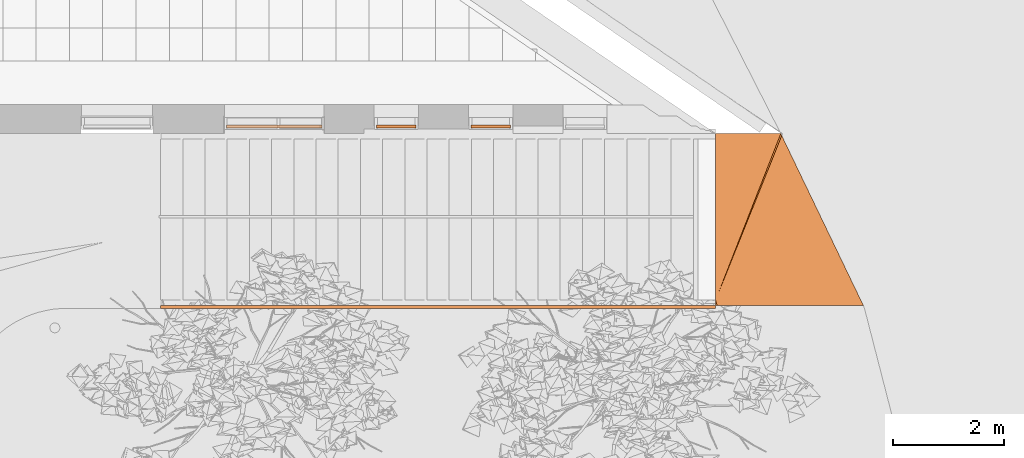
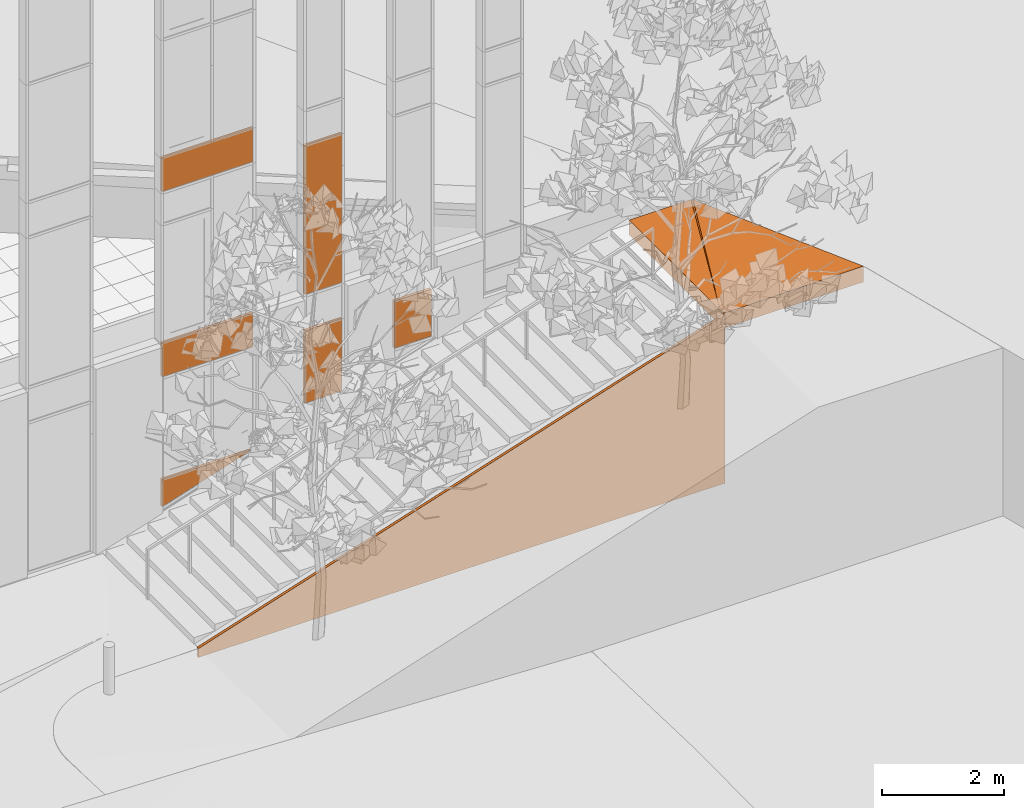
# One storey, part 238 of 246: 8 proxies, 3 elements without a shape of their own.
"""IFC2X3 building model written with IfcOpenShell, lengths in millimetres."""

from ifc_helpers import new_model, entity, si_unit, converted_unit, derived_unit, money_unit, direction, frame, origin_with_axes, place, context, subcontext, project, spatial, faceted_brep, material, type_object, element, aggregate, save


model = new_model("IFC2X3")

# Units and contexts
model_context = context("Model", 3, precision=0.01, world=origin_with_axes(), true_north=direction((0.0, 1.0)))
body_context = subcontext(model_context, "Body", "Model", "MODEL_VIEW")
ifc_project = project(units=[si_unit("LENGTHUNIT", "METRE", prefix="MILLI"), si_unit("AREAUNIT", "SQUARE_METRE"), si_unit("VOLUMEUNIT", "CUBIC_METRE"), converted_unit("PLANEANGLEUNIT", "DEGREE", entity("IfcPlaneAngleMeasure", 0.0174532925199), si_unit("PLANEANGLEUNIT", "RADIAN"), dimensions=[0, 0, 0, 0, 0, 0, 0]), si_unit("SOLIDANGLEUNIT", "STERADIAN"), money_unit("EUR"), converted_unit("TIMEUNIT", "Year", entity("IfcTimeMeasure", 31556926.0), si_unit("TIMEUNIT", "SECOND"), dimensions=[0, 0, 1, 0, 0, 0, 0]), si_unit("MASSUNIT", "GRAM", prefix="KILO"), si_unit("THERMODYNAMICTEMPERATUREUNIT", "DEGREE_CELSIUS"), si_unit("LUMINOUSINTENSITYUNIT", "LUMEN"), si_unit("ENERGYUNIT", "JOULE", prefix="MEGA"), derived_unit("THERMALCONDUCTANCEUNIT", [(si_unit("POWERUNIT", "WATT"), 1), (si_unit("LENGTHUNIT", "METRE"), -1), (si_unit("THERMODYNAMICTEMPERATUREUNIT", "KELVIN"), -1)]), derived_unit("SPECIFICHEATCAPACITYUNIT", [(si_unit("ENERGYUNIT", "JOULE"), 1), (si_unit("MASSUNIT", "GRAM", prefix="KILO"), -1), (si_unit("THERMODYNAMICTEMPERATUREUNIT", "KELVIN"), -1)]), derived_unit("MASSDENSITYUNIT", [(si_unit("MASSUNIT", "GRAM", prefix="KILO"), 1), (si_unit("VOLUMEUNIT", "CUBIC_METRE"), -1)])], contexts=[model_context])

# Site, building, storey
site_placement = place(None, origin_with_axes())
site = spatial("IfcSite", under=ifc_project, at=site_placement, Name="L.Koidula tn 11b", CompositionType="ELEMENT")
building_placement = place(site_placement, origin_with_axes())
building = spatial("IfcBuilding", under=site, at=building_placement, Name="Rakvere Riigigümnaasium", CompositionType="ELEMENT")
storey_placement = place(building_placement, origin_with_axes())
storey = spatial("IfcBuildingStorey", under=building, at=storey_placement, Name="1.korrus 0,00", CompositionType="ELEMENT", Elevation=0.0)

# Curtain wall, proxies
curtain_wall_type = type_object("IfcCurtainWallType", Name="Curtain Wall Type", PredefinedType="NOTDEFINED")
curtain_wall_1_placement = place(storey_placement, frame((98799.9667993, 5111.45595337, 1534.99996364), z_axis=(0.0, 0.0, 1.0), x_axis=(1.0, 0.0, 0.0)))
curtain_wall_1 = element("IfcCurtainWall", 1, at=curtain_wall_1_placement, inside=storey, type_object=curtain_wall_type, Name="KLF-05-4A1")
ifc_material_1 = material(Name="Klaaspakett 3x ribikardinatega")
building_element_proxy_type_1 = type_object("IfcBuildingElementProxyType", Name="706 x 628 x 54", PredefinedType="NOTDEFINED")
proxy_1_placement = place(curtain_wall_1_placement, frame((0.0, 0.0, 4006.66669493), z_axis=(0.0, 0.0, 1.0), x_axis=(-0.999999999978, -6.68287358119e-06, 0.0)))
proxy_1 = element("IfcBuildingElementProxy", 2, at=proxy_1_placement, type_object=building_element_proxy_type_1, material=ifc_material_1, Name="KLF-66", context=body_context, shape_type="Brep", body=[
    faceted_brep([(-353.000102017, -26.9949009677, 1206.33331992), (352.999773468, -26.9996190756, 1206.33331992), (353.000134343, 27.0003809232, 1206.33331992), (-352.999741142, 27.0050990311, 1206.33331992), (-353.000102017, -26.9949009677, 578.333351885), (-353.000102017, -26.9949009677, -1784.66665326), (352.999773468, -26.9996190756, -1784.66665326), (352.999773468, -26.9996190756, 578.333351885), (353.000134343, 27.0003809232, 578.333351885), (353.000134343, 27.0003809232, -1784.66665326), (-352.999741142, 27.0050990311, -1784.66665326), (-352.999741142, 27.0050990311, 578.333351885)], [[[0, 1, 2, 3]], [[0, 4, 5, 6, 7, 1]], [[1, 7, 8, 2]], [[3, 2, 8, 9, 10, 11]], [[4, 0, 3, 11]], [[5, 4, 11, 10]], [[6, 5, 10, 9]], [[7, 6, 9, 8]]]),
])
building_element_proxy_type_2 = type_object("IfcBuildingElementProxyType", Name="706 x 1456 x 54", PredefinedType="NOTDEFINED")
proxy_2_placement = place(curtain_wall_1_placement, frame((0.0, 0.0, 752.500014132), z_axis=(0.0, 0.0, 1.0), x_axis=(-0.999999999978, -6.68287358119e-06, 0.0)))
proxy_2 = element("IfcBuildingElementProxy", 3, at=proxy_2_placement, type_object=building_element_proxy_type_2, material=ifc_material_1, Name="KLF-65", context=body_context, shape_type="Brep", body=[
    faceted_brep([(-353.000110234, -26.9949009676, 740.500008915), (352.999751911, -26.9996190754, 740.500008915), (353.000112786, 27.0003809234, 740.500008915), (-352.999749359, 27.0050990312, 740.500008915), (-353.000110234, -26.9949009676, -715.500011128), (352.999751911, -26.9996190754, -715.500011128), (353.000112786, 27.0003809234, -715.500011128), (-352.999749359, 27.0050990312, -715.500011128)], [[[0, 1, 2, 3]], [[0, 4, 5, 1]], [[1, 5, 6, 2]], [[3, 2, 6, 7]], [[4, 0, 3, 7]], [[5, 4, 7, 6]]]),
])
aggregate(curtain_wall_1, [proxy_1, proxy_2])

# Curtain wall, proxy
curtain_wall_2_placement = place(storey_placement, frame((100499.941472, 5111.64286466, 2044.99997146), z_axis=(0.0, 0.0, 1.0), x_axis=(1.0, 0.0, 0.0)))
curtain_wall_2 = element("IfcCurtainWall", 4, at=curtain_wall_2_placement, inside=storey, type_object=curtain_wall_type, Name="KLF-05-4A2")
building_element_proxy_type_3 = type_object("IfcBuildingElementProxyType", Name="706 x 946 x 54", PredefinedType="NOTDEFINED")
proxy_3_placement = place(curtain_wall_2_placement, frame((2.35403376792e-05, -3.34843264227e-09, 497.5), z_axis=(0.0, 0.0, 1.0), x_axis=(-0.999999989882, 0.000142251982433, 0.0)))
proxy_3 = element("IfcBuildingElementProxy", 5, at=proxy_3_placement, type_object=building_element_proxy_type_3, material=ifc_material_1, Name="KLF-65", context=body_context, shape_type="Brep", body=[
    faceted_brep([(-352.999826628, -27.0000000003, 485.500005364), (352.999828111, -27.0, 485.500005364), (352.999828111, 27.0, 485.500005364), (-352.999826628, 26.9999999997, 485.500005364), (-352.999826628, -27.0000000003, -460.500001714), (352.999828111, -27.0, -460.500001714), (352.999828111, 27.0, -460.500001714), (-352.999826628, 26.9999999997, -460.500001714)], [[[0, 1, 2, 3]], [[0, 4, 5, 1]], [[1, 5, 6, 2]], [[3, 2, 6, 7]], [[4, 0, 3, 7]], [[5, 4, 7, 6]]]),
])
aggregate(curtain_wall_2, [proxy_3])

# Curtain wall, proxies
curtain_wall_3_placement = place(storey_placement, frame((96030.936158, 5111.45334637, 394.620798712), z_axis=(0.0, 0.0, 1.0), x_axis=(1.0, 0.0, 0.0)))
curtain_wall_3 = element("IfcCurtainWall", 6, at=curtain_wall_3_placement, inside=storey, type_object=curtain_wall_type, Name="KLF-05-2C")
ifc_material_2 = material(Name="Klaaspakett- taustvärvitud klaas 3x")
building_element_proxy_type_4 = type_object("IfcBuildingElementProxyType", Name="938 x 681 x 54", PredefinedType="NOTDEFINED")
proxy_4_placement = place(curtain_wall_3_placement, frame((367.266015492, 0.0, 6717.87919319), z_axis=(0.0, 0.0, 1.0), x_axis=(-1.0, 0.0, 0.0)))
proxy_4 = element("IfcBuildingElementProxy", 7, at=proxy_4_placement, type_object=building_element_proxy_type_4, material=ifc_material_2, Name="KLF-05-2A-Klaasid", context=body_context, shape_type="Brep", body=[
    faceted_brep([(-1064.79803546, -27.0, 340.500012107), (-276.797946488, -27.0, 340.500012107), (-276.797946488, 27.0, 340.500012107), (-1064.79803546, 27.0, 340.500012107), (-1064.79803546, -27.0, -340.499999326), (-276.797946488, -27.0, -340.499999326), (661.202043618, -27.0, -340.499999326), (661.202043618, -27.0, 340.500012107), (661.202043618, 27.0, 340.500012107), (661.202043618, 27.0, -340.499999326), (-276.797946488, 27.0, -340.499999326), (-1064.79803546, 27.0, -340.499999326)], [[[0, 1, 2, 3]], [[0, 4, 5, 6, 7, 1]], [[1, 7, 8, 2]], [[3, 2, 8, 9, 10, 11]], [[4, 0, 3, 11]], [[5, 4, 11, 10]], [[6, 5, 10, 9]], [[7, 6, 9, 8]]]),
])
proxy_5_placement = place(curtain_wall_3_placement, frame((367.266015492, 0.0, 2997.87919319), z_axis=(0.0, 0.0, 1.0), x_axis=(-1.0, 0.0, 0.0)))
proxy_5 = element("IfcBuildingElementProxy", 8, at=proxy_5_placement, type_object=building_element_proxy_type_4, material=ifc_material_2, Name="KLF-05-2A-Klaasid", context=body_context, shape_type="Brep", body=[
    faceted_brep([(-1064.79803546, -27.0, 340.500012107), (-276.797946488, -27.0, 340.500012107), (-276.797946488, 27.0, 340.500012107), (-1064.79803546, 27.0, 340.500012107), (-1064.79803546, -27.0, -340.499999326), (-276.797946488, -27.0, -340.499999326), (661.202043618, -27.0, -340.499999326), (661.202043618, -27.0, 340.500012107), (661.202043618, 27.0, 340.500012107), (661.202043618, 27.0, -340.499999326), (-276.797946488, 27.0, -340.499999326), (-1064.79803546, 27.0, -340.499999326)], [[[0, 1, 2, 3]], [[0, 4, 5, 6, 7, 1]], [[1, 7, 8, 2]], [[3, 2, 8, 9, 10, 11]], [[4, 0, 3, 11]], [[5, 4, 11, 10]], [[6, 5, 10, 9]], [[7, 6, 9, 8]]]),
])
building_element_proxy_type_5 = type_object("IfcBuildingElementProxyType", Name="938 x 543 x 54", PredefinedType="NOTDEFINED")
proxy_6_placement = place(curtain_wall_3_placement, frame((589.258723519, 0.0, 490.036975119), z_axis=(0.0, 0.0, 1.0), x_axis=(-1.0, 0.0, 0.0)))
proxy_6 = element("IfcBuildingElementProxy", 9, at=proxy_6_placement, type_object=building_element_proxy_type_5, material=ifc_material_2, Name="KLF-05-VU-2", context=body_context, shape_type="Brep", body=[
    faceted_brep([(-802.17223381, -27.0, 103.342228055), (-54.8052384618, -27.0, 103.342228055), (-54.8052384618, 27.0, 103.342228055), (-802.17223381, 27.0, 103.342228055), (-43.4664029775, -27.0, -140.92000761), (883.194751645, -27.0, -439.254666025), (883.194751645, -27.0, 103.342228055), (883.194751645, 27.0, 103.342228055), (883.194751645, 27.0, -439.254666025), (-43.4664029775, 27.0, -140.92000761)], [[[0, 1, 2, 3]], [[0, 4, 5, 6, 1]], [[1, 6, 7, 2]], [[3, 2, 7, 8, 9]], [[4, 0, 3, 9]], [[5, 4, 9, 8]], [[6, 5, 8, 7]]]),
])
aggregate(curtain_wall_3, [proxy_4, proxy_6, proxy_5])

# Proxies
ifc_material_3 = material(Name="Sillutiskivi")
building_element_proxy_type_6 = type_object("IfcBuildingElementProxyType", Name="Sillutiskivi", PredefinedType="NOTDEFINED")
proxy_7_placement = place(storey_placement, frame((104555.120553, 1887.33639657, 2880.27842784), z_axis=(0.0, 0.0, 1.0), x_axis=(1.0, 0.0, 0.0)))
element("IfcBuildingElementProxy", 10, at=proxy_7_placement, inside=storey, type_object=building_element_proxy_type_6, material=ifc_material_3, Name="Sillutatud kõnnitee", context=body_context, shape_type="Brep", body=[
    faceted_brep([(1172.6963491, 3099.1191423, 0.0), (1172.69635596, 3099.11914254, 299.721572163), (1190.27029704, 3062.53388125, 319.477670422), (2661.36569322, 0.0228696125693, 319.096544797), (2661.36569322, 0.0228696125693, 0.0), (0.0, 3099.10507586, 0.0), (0.0, 3099.10507586, 299.721572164), (0.0, 105.875445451, 299.76661418), (0.0, 106.061118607, 299.721572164), (0.0, 97.9586045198, 299.737450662), (229.576697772, 0.00197279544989, 301.077694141), (28.3113021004, 0.000243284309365, 300.305677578), (0.0, 0.0, 261.909729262), (0.0, 0.0, 0.0), (0.0, 90.4313124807, 299.772769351)], [[[0, 1, 2, 3, 4]], [[5, 6, 1, 0]], [[7, 2, 1, 8]], [[9, 10, 3, 2, 7]], [[10, 11, 12, 13, 4, 3]], [[13, 5, 0, 4]], [[7, 8, 6, 5, 13, 12, 14, 9]], [[8, 1, 6]], [[14, 11, 10, 9]], [[14, 12, 11]]]),
])
ifc_material_4 = material(Name="Betoon")
building_element_proxy_type_7 = type_object("IfcBuildingElementProxyType", Name="Betoon", PredefinedType="NOTDEFINED")
proxy_8_placement = place(storey_placement, frame((94552.4006498, 1836.45549919, -200.0), z_axis=(0.0, 0.0, 1.0), x_axis=(1.0, 0.0, 0.0)))
element("IfcBuildingElementProxy", 11, at=proxy_8_placement, inside=storey, type_object=building_element_proxy_type_7, material=ifc_material_4, Name="tugimüür", context=body_context, shape_type="Brep", body=[
    faceted_brep([(10001.1786167, 0.985676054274, 3380.0), (10001.1785871, 50.7959532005, 3380.0), (0.0, 50.8809000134, 182.043035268), (0.0, 0.0, 182.043035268), (10001.1785871, 50.7959532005, 0.0), (10001.1786167, 0.985676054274, 0.0), (0.0, 50.8809000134, 0.0), (0.0, 0.0, 0.0)], [[[0, 1, 2, 3]], [[4, 1, 0, 5]], [[6, 2, 1, 4]], [[7, 3, 2, 6]], [[5, 0, 3, 7]], [[6, 4, 5, 7]]]),
])

save(model, "model.ifc")
